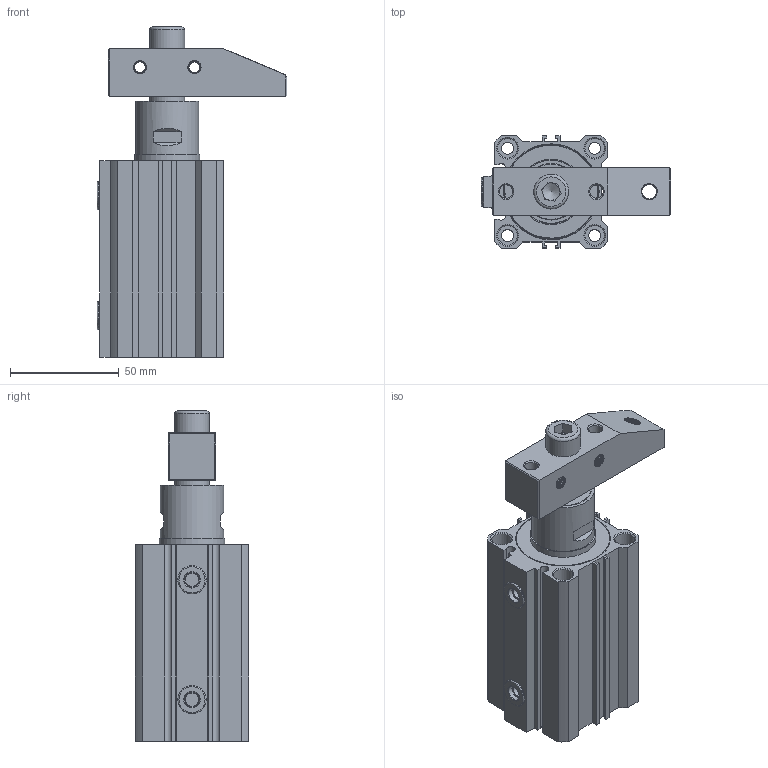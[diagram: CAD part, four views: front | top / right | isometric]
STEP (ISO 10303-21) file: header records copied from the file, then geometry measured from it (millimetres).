
FILE_DESCRIPTION(/* description */ ('STEP AP203'),/* implementation_level */ '2;1');
FILE_NAME(/* name */ 'E:\SERWER_ZAPAS\MODELE brakujace\PNEUMATIC\PB(STEP)\PBL4感应式转角缸三维图\PBL-40L_ZAMKNIETY.stp',/* time_stamp */ '2019-02-01T13:37:34+01:00',/* author */ ('Admin'),/* organization */ ('Î¢ÈíÖÐ¹ú'),/* preprocessor_version */ 'ST-DEVELOPER v17.2',/* originating_system */ 'Autodesk Inventor 2019',/* authorisation */ '');
FILE_SCHEMA (('AUTOMOTIVE_DESIGN { 1 0 10303 214 3 1 1 }'));
Products named in the file (12): PBL-40L_ZAMKNIETY; ±¾±¾°É; ºó¸Ç; Parallel pins Unhardening Steel GB_GB_CONNECTING_PIECE_PIN_PPUS 4X40; »îÈû11; 1-8¶ÂÍ·0023; Ñ¹±Û41254; Hexagon socket head cap screws GB_GB_FASTENER_SCREWS_HSHCS M10X30-S; Ç°¸Ç11; »îÈû¸Ë11421; µæ¿é; s¸Ë2256
Assembly tree (12 placements, depth 2):
  PBL-40L_ZAMKNIETY
    ±¾±¾°É
    ºó¸Ç
    Parallel pins Unhardening Steel GB_GB_CONNECTING_PIECE_PIN_PPUS 4X40
    »îÈû11
    1-8¶ÂÍ·0023  x2
    Ñ¹±Û41254
    Hexagon socket head cap screws GB_GB_FASTENER_SCREWS_HSHCS M10X30-S
    Ç°¸Ç11
    »îÈû¸Ë11421
    µæ¿é
    s¸Ë2256
Bounding box: 87.2 x 52 x 151.5 mm (x, y, z)
Volume: 216440 mm3; surface area: 102111.6 mm2
Topology: 12 solids, 12 shells, 713 faces, 2039 edges, 1405 vertices
Faces by surface type: cylinder 255, plane 197, cone 167, torus 49, bspline 45
Full cylindrical faces by diameter (mm): 2 x3, 4 x6, 5 x52, 5.5 x4, 6 x2, 6.2 x2, 6.8 x16, 7 x2, 8.2 x20, 8.7 x2, 9 x8, 10 x30, 10.5 x1, 11.624 x1, 12 x4, 13 x2, 16 x4, 16.1 x3, 16.5 x1, 18 x10, 19 x1, 20.3 x1, 22 x2, 24 x2, 26 x2, 29 x1, 30 x1, 32 x1, 36 x1, 36.7 x1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
Entity records: 57879 total; most frequent: CARTESIAN_POINT 39015, ORIENTED_EDGE 4000, DIRECTION 3839, EDGE_CURVE 2000, AXIS2_PLACEMENT_3D 1567, VERTEX_POINT 1379, CIRCLE 876, EDGE_LOOP 793
